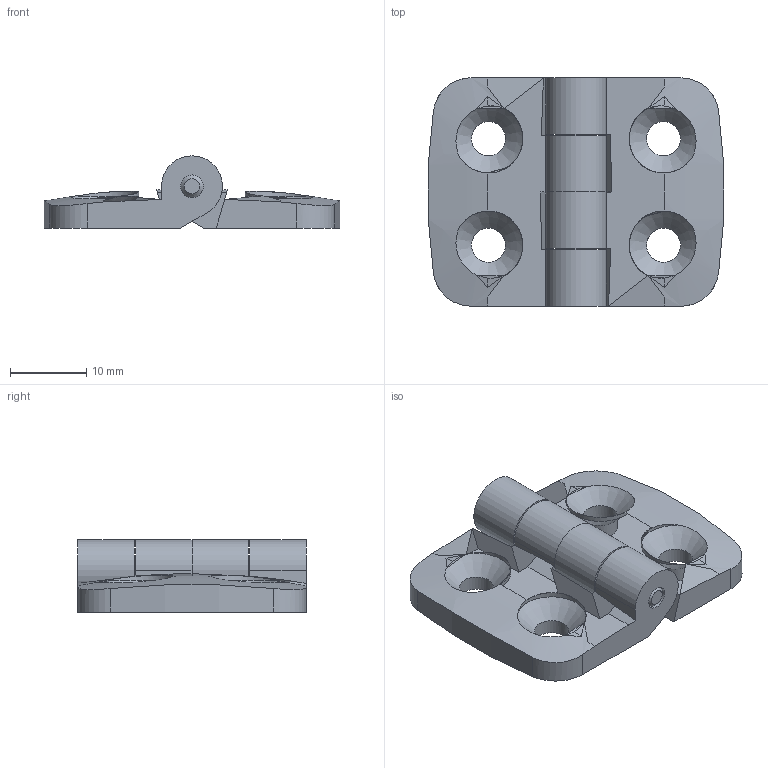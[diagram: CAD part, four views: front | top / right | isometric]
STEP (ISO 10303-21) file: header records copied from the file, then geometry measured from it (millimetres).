
FILE_DESCRIPTION(/* description */ ('STEP AP214'),/* implementation_level */ '2;1');
FILE_NAME(/* name */ '095K2020F00(0high)',/* time_stamp */ '2025-03-17T14:13:59+01:00',/* author */ ('License CC BY-ND 4.0'),/* organization */ ('CADENAS'),/* preprocessor_version */ 'ST-DEVELOPER v19.3',/* originating_system */ 'PARTsolutions',/* authorisation */ ' ');
FILE_SCHEMA (('AUTOMOTIVE_DESIGN {1 0 10303 214 3 1 1}'));
Length unit declared in the file: millimetre
Products named in the file (4): 095K2020F00(0high); 095K2020F00(high)_1; 095K2020F00(high)_pin; 095K2020F00(high)_2
Assembly tree (3 placements, depth 2):
  095K2020F00(0high)
    095K2020F00(high)_1
    095K2020F00(high)_pin
    095K2020F00(high)_2
Bounding box: 38.84 x 30 x 9.5 mm (x, y, z)
Topology: 3 solids, 3 shells, 59 faces, 171 edges, 108 vertices
Faces by surface type: plane 26, cylinder 23, cone 6, torus 4
Full cylindrical faces by diameter (mm): 3 x5, 4.5 x4
Entity records: 1990 total; most frequent: CARTESIAN_POINT 455, ORIENTED_EDGE 292, DIRECTION 284, EDGE_CURVE 146, AXIS2_PLACEMENT_3D 113, VERTEX_POINT 104, EDGE_LOOP 86, FACE_BOUND 86
